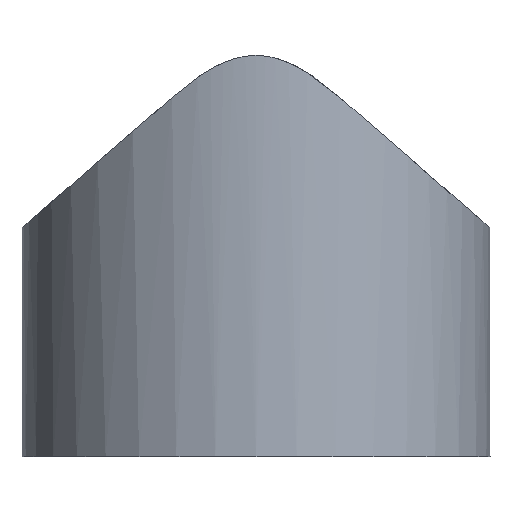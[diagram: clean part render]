
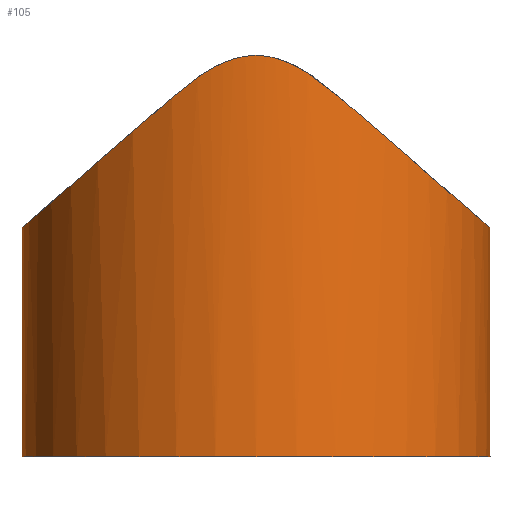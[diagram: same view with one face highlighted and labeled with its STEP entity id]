
A CAD part, left-side view. The second image highlights one B-rep face of the part: STEP entity #105.
In plain terms, the highlighted cylindrical face has radius 4.445 mm (diameter 8.89 mm), a full revolution.
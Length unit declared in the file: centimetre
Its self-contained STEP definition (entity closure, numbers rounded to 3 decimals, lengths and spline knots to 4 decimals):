
#34=CIRCLE('',#112,0.4445);
#35=CYLINDRICAL_SURFACE('',#111,0.4445);
#36=B_SPLINE_CURVE_WITH_KNOTS('',3,(#152,#153,#154,#155,#156,#157,#158,#159,
#160,#161),.UNSPECIFIED.,.F.,.U.,(4,2,2,2,4),(0.,0.0397,0.1496,
0.2517,0.3546),.UNSPECIFIED.);
#37=B_SPLINE_CURVE_WITH_KNOTS('',3,(#163,#164,#165,#166,#167,#168,#169,#170),
 .UNSPECIFIED.,.F.,.U.,(4,2,2,4),(0.,0.0372,0.0833,
0.1328),.UNSPECIFIED.);
#38=B_SPLINE_CURVE_WITH_KNOTS('',3,(#187,#188,#189,#190,#191,#192,#193,#194),
 .UNSPECIFIED.,.F.,.U.,(4,2,2,4),(0.,0.0372,0.0833,
0.1328),.UNSPECIFIED.);
#39=B_SPLINE_CURVE_WITH_KNOTS('',3,(#195,#196,#197,#198,#199,#200,#201,#202,
#203,#204),.UNSPECIFIED.,.F.,.U.,(4,2,2,2,4),(0.,0.0397,0.1496,
0.2517,0.3546),.UNSPECIFIED.);
#48=VERTEX_POINT('',#130);
#49=VERTEX_POINT('',#131);
#50=VERTEX_POINT('',#135);
#51=VERTEX_POINT('',#136);
#52=VERTEX_POINT('',#162);
#53=VERTEX_POINT('',#171);
#54=VERTEX_POINT('',#207);
#55=ELLIPSE('',#108,0.5889,0.4445);
#56=ELLIPSE('',#110,0.5889,0.4445);
#57=EDGE_CURVE('',#48,#49,#55,.T.);
#59=EDGE_CURVE('',#50,#51,#56,.T.);
#61=EDGE_CURVE('',#51,#52,#36,.T.);
#62=EDGE_CURVE('',#53,#50,#37,.T.);
#64=EDGE_CURVE('',#52,#48,#38,.T.);
#65=EDGE_CURVE('',#49,#53,#39,.T.);
#66=EDGE_CURVE('',#54,#54,#34,.T.);
#79=ORIENTED_EDGE('',*,*,#59,.T.);
#80=ORIENTED_EDGE('',*,*,#61,.T.);
#81=ORIENTED_EDGE('',*,*,#64,.T.);
#82=ORIENTED_EDGE('',*,*,#57,.T.);
#83=ORIENTED_EDGE('',*,*,#65,.T.);
#84=ORIENTED_EDGE('',*,*,#62,.T.);
#85=ORIENTED_EDGE('',*,*,#66,.T.);
#91=EDGE_LOOP('',(#79,#80,#81,#82,#83,#84));
#92=EDGE_LOOP('',(#85));
#98=FACE_BOUND('',#91,.T.);
#99=FACE_BOUND('',#92,.T.);
#105=ADVANCED_FACE('',(#98,#99),#35,.T.);
#108=AXIS2_PLACEMENT_3D('',#129,#115,#116);
#110=AXIS2_PLACEMENT_3D('',#134,#119,#120);
#111=AXIS2_PLACEMENT_3D('',#205,#123,#124);
#112=AXIS2_PLACEMENT_3D('',#206,#125,#126);
#115=DIRECTION('',(0.,0.656,-0.755));
#116=DIRECTION('',(0.,0.445,0.386));
#119=DIRECTION('',(0.,-0.656,-0.755));
#120=DIRECTION('',(0.,0.445,-0.386));
#123=DIRECTION('',(0.,0.,1.));
#124=DIRECTION('',(0.445,0.,0.));
#125=DIRECTION('',(0.,0.,1.));
#126=DIRECTION('',(0.445,0.,0.));
#129=CARTESIAN_POINT('',(0.,0.,0.8207));
#130=CARTESIAN_POINT('',(0.415,-0.1593,0.6823));
#131=CARTESIAN_POINT('',(-0.415,-0.1593,0.6823));
#134=CARTESIAN_POINT('',(0.,0.,0.8207));
#135=CARTESIAN_POINT('',(-0.415,0.1593,0.6823));
#136=CARTESIAN_POINT('',(0.415,0.1593,0.6823));
#152=CARTESIAN_POINT('',(0.415,0.1593,0.6823));
#153=CARTESIAN_POINT('',(0.4187,0.1497,0.6907));
#154=CARTESIAN_POINT('',(0.4221,0.1398,0.6988));
#155=CARTESIAN_POINT('',(0.4338,0.1013,0.7283));
#156=CARTESIAN_POINT('',(0.4372,0.0812,0.7392));
#157=CARTESIAN_POINT('',(0.4407,0.0589,0.7498));
#158=CARTESIAN_POINT('',(0.4421,0.0475,0.7542));
#159=CARTESIAN_POINT('',(0.444,0.0241,0.7603));
#160=CARTESIAN_POINT('',(0.4445,0.0121,0.762));
#161=CARTESIAN_POINT('',(0.4445,0.,0.762));
#162=CARTESIAN_POINT('',(0.4445,0.,0.762));
#163=CARTESIAN_POINT('',(-0.4445,0.,0.762));
#164=CARTESIAN_POINT('',(-0.4445,0.0124,0.762));
#165=CARTESIAN_POINT('',(-0.444,0.0282,0.7604));
#166=CARTESIAN_POINT('',(-0.4393,0.072,0.7455));
#167=CARTESIAN_POINT('',(-0.4349,0.0928,0.7326));
#168=CARTESIAN_POINT('',(-0.4283,0.1198,0.7144));
#169=CARTESIAN_POINT('',(-0.4232,0.1379,0.7009));
#170=CARTESIAN_POINT('',(-0.415,0.1593,0.6823));
#171=CARTESIAN_POINT('',(-0.4445,0.,0.762));
#187=CARTESIAN_POINT('',(0.4445,0.,0.762));
#188=CARTESIAN_POINT('',(0.4445,-0.0124,0.762));
#189=CARTESIAN_POINT('',(0.444,-0.0282,0.7604));
#190=CARTESIAN_POINT('',(0.4393,-0.072,0.7455));
#191=CARTESIAN_POINT('',(0.4349,-0.0928,0.7326));
#192=CARTESIAN_POINT('',(0.4283,-0.1198,0.7144));
#193=CARTESIAN_POINT('',(0.4232,-0.1379,0.7009));
#194=CARTESIAN_POINT('',(0.415,-0.1593,0.6823));
#195=CARTESIAN_POINT('',(-0.415,-0.1593,0.6823));
#196=CARTESIAN_POINT('',(-0.4187,-0.1497,0.6907));
#197=CARTESIAN_POINT('',(-0.4221,-0.1398,0.6988));
#198=CARTESIAN_POINT('',(-0.4338,-0.1013,0.7283));
#199=CARTESIAN_POINT('',(-0.4372,-0.0812,0.7392));
#200=CARTESIAN_POINT('',(-0.4407,-0.0589,0.7498));
#201=CARTESIAN_POINT('',(-0.4421,-0.0475,0.7542));
#202=CARTESIAN_POINT('',(-0.444,-0.0241,0.7603));
#203=CARTESIAN_POINT('',(-0.4445,-0.0121,0.762));
#204=CARTESIAN_POINT('',(-0.4445,0.,0.762));
#205=CARTESIAN_POINT('',(0.,0.,0.));
#206=CARTESIAN_POINT('',(0.,0.,0.));
#207=CARTESIAN_POINT('',(0.4445,0.,0.));
